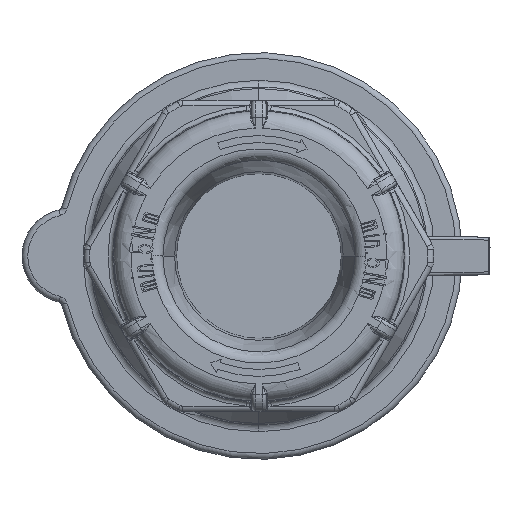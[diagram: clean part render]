
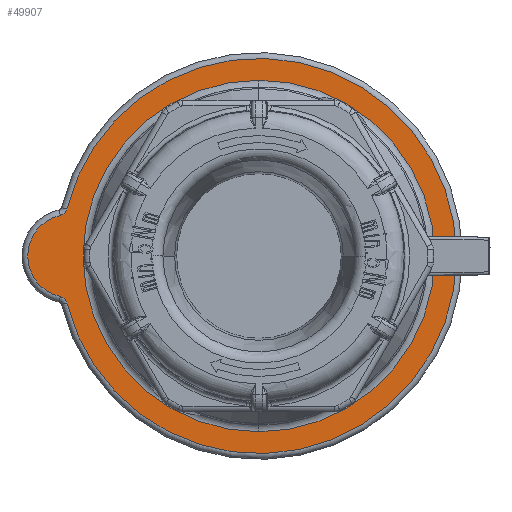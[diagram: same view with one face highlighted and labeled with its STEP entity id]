
A CAD part, front view. The second image highlights one B-rep face of the part: STEP entity #49907.
In plain terms, the highlighted planar face has unit normal (0, -1, 0).
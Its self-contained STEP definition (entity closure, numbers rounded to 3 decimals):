
#11516=CARTESIAN_POINT('',(0.,18.,0.));
#11517=DIRECTION('',(0.,-1.,0.));
#11518=DIRECTION('',(0.,0.,-1.));
#11519=AXIS2_PLACEMENT_3D('',#11516,#11517,#11518);
#11521=CARTESIAN_POINT('',(0.,18.,0.));
#11522=DIRECTION('',(0.,1.,0.));
#11523=DIRECTION('',(0.,0.,-1.));
#11524=AXIS2_PLACEMENT_3D('',#11521,#11522,#11523);
#11531=CARTESIAN_POINT('',(0.,18.,0.));
#11532=DIRECTION('',(0.,-1.,0.));
#11533=DIRECTION('',(-0.971,0.,-0.238));
#11534=AXIS2_PLACEMENT_3D('',#11531,#11532,#11533);
#11584=CARTESIAN_POINT('',(-34.674,18.,8.496));
#11585=DIRECTION('',(0.,1.,0.));
#11586=DIRECTION('',(0.971,0.,-0.238));
#11587=AXIS2_PLACEMENT_3D('',#11584,#11585,#11586);
#11589=CARTESIAN_POINT('',(-32.8,18.,0.));
#11590=DIRECTION('',(0.,1.,0.));
#11591=DIRECTION('',(-0.215,0.,-0.977));
#11592=AXIS2_PLACEMENT_3D('',#11589,#11590,#11591);
#11614=CARTESIAN_POINT('',(-34.674,18.,-8.496));
#11615=DIRECTION('',(0.,-1.,0.));
#11616=DIRECTION('',(0.971,0.,0.238));
#11617=AXIS2_PLACEMENT_3D('',#11614,#11615,#11616);
#24411=CARTESIAN_POINT('',(0.,18.,-30.425));
#24412=VERTEX_POINT('',#24411);
#24413=CARTESIAN_POINT('',(0.,18.,30.425));
#24414=VERTEX_POINT('',#24413);
#24647=CARTESIAN_POINT('',(-33.217,18.,-8.139));
#24648=CARTESIAN_POINT('',(-33.217,18.,8.139));
#24649=VERTEX_POINT('',#24647);
#24650=VERTEX_POINT('',#24648);
#24653=CARTESIAN_POINT('',(-34.351,18.,7.031));
#24654=VERTEX_POINT('',#24653);
#24655=CARTESIAN_POINT('',(-34.351,18.,-7.031));
#24656=VERTEX_POINT('',#24655);
#49888=CARTESIAN_POINT('',(0.,18.,0.));
#49889=DIRECTION('',(0.,-1.,0.));
#49890=DIRECTION('',(0.,0.,1.));
#49891=AXIS2_PLACEMENT_3D('',#49888,#49889,#49890);
#49892=PLANE('35',#49891);
#49894=ORIENTED_EDGE('2027',*,*,#49893,.F.);
#49896=ORIENTED_EDGE('2035',*,*,#49895,.T.);
#49898=ORIENTED_EDGE('2031',*,*,#49897,.T.);
#49900=ORIENTED_EDGE('2029',*,*,#49899,.F.);
#49901=EDGE_LOOP('35',(#49894,#49896,#49898,#49900));
#49902=FACE_OUTER_BOUND('35',#49901,.F.);
#49903=ORIENTED_EDGE('1801',*,*,#49846,.T.);
#49904=ORIENTED_EDGE('1803',*,*,#49869,.F.);
#49905=EDGE_LOOP('35',(#49903,#49904));
#49906=FACE_BOUND('35',#49905,.F.);
#11520=CIRCLE('1801',#11519,30.425);
#11525=CIRCLE('1803',#11524,30.425);
#11535=CIRCLE('2027',#11534,34.2);
#11588=CIRCLE('2029',#11587,1.5);
#11593=CIRCLE('2031',#11592,7.2);
#11618=CIRCLE('2035',#11617,1.5);
#49846=EDGE_CURVE('1801',#24412,#24414,#11520,.T.);
#49869=EDGE_CURVE('1803',#24412,#24414,#11525,.T.);
#49893=EDGE_CURVE('2027',#24649,#24650,#11535,.T.);
#49895=EDGE_CURVE('2035',#24649,#24656,#11618,.T.);
#49897=EDGE_CURVE('2031',#24656,#24654,#11593,.T.);
#49899=EDGE_CURVE('2029',#24650,#24654,#11588,.T.);
#49907=ADVANCED_FACE('35',(#49902,#49906),#49892,.T.);
